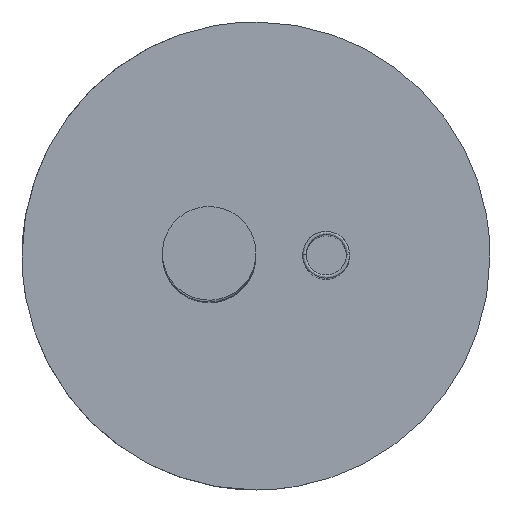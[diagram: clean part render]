
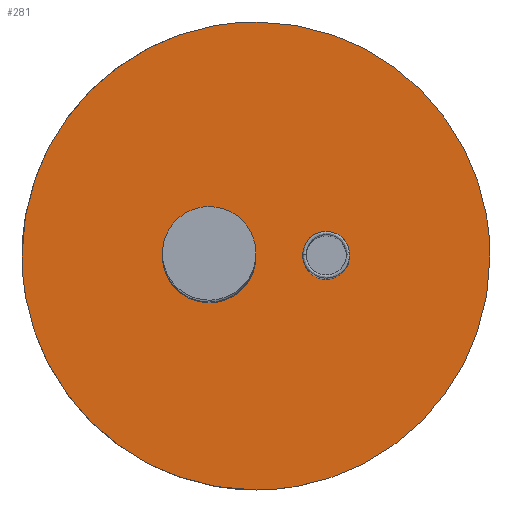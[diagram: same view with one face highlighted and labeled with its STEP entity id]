
A CAD part, top view. The second image highlights one B-rep face of the part: STEP entity #281.
In plain terms, the highlighted planar face has unit normal (0, 0, 1).
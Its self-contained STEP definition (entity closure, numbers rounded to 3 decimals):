
#38=FACE_BOUND('',#1830,.T.);
#39=FACE_BOUND('',#1831,.T.);
#281=ADVANCED_FACE('',(#1048,#38,#39),#12945,.T.);
#1048=FACE_OUTER_BOUND('',#1829,.T.);
#1829=EDGE_LOOP('',(#3483,#3484,#3485,#3486));
#1830=EDGE_LOOP('',(#3487,#3488,#3489,#3490));
#1831=EDGE_LOOP('',(#3491,#3492));
#3483=ORIENTED_EDGE('',*,*,#7410,.F.);
#3484=ORIENTED_EDGE('',*,*,#7560,.F.);
#3485=ORIENTED_EDGE('',*,*,#7561,.F.);
#3486=ORIENTED_EDGE('',*,*,#7409,.F.);
#3487=ORIENTED_EDGE('',*,*,#8709,.F.);
#3488=ORIENTED_EDGE('',*,*,#8710,.F.);
#3489=ORIENTED_EDGE('',*,*,#8711,.F.);
#3490=ORIENTED_EDGE('',*,*,#8712,.F.);
#3491=ORIENTED_EDGE('',*,*,#9149,.F.);
#3492=ORIENTED_EDGE('',*,*,#7251,.F.);
#7251=EDGE_CURVE('',#11624,#12928,#11298,.T.);
#7409=EDGE_CURVE('',#11725,#11724,#11324,.T.);
#7410=EDGE_CURVE('',#11726,#11725,#11325,.T.);
#7560=EDGE_CURVE('',#12097,#11726,#11327,.T.);
#7561=EDGE_CURVE('',#11724,#12097,#11328,.T.);
#8709=EDGE_CURVE('',#12603,#12602,#11357,.T.);
#8710=EDGE_CURVE('',#12604,#12603,#11358,.T.);
#8711=EDGE_CURVE('',#12605,#12604,#11359,.T.);
#8712=EDGE_CURVE('',#12602,#12605,#11360,.T.);
#9149=EDGE_CURVE('',#12928,#11624,#11393,.T.);
#11298=(
BOUNDED_CURVE()
B_SPLINE_CURVE(3,(#28158,#28159,#28160,#28161,#28162,#28163,#28164,#28165,
#28166,#28167,#28168,#28169,#28170),.UNSPECIFIED.,.F.,.F.)
B_SPLINE_CURVE_WITH_KNOTS((4,3,3,3,4),(-36.441,-31.886,
-27.331,-22.775,-18.22),.UNSPECIFIED.)
CURVE()
GEOMETRIC_REPRESENTATION_ITEM()
RATIONAL_B_SPLINE_CURVE((1.,1.,1.,1.,1.,1.,1.,1.,1.,
1.,1.,1.,1.))
REPRESENTATION_ITEM('')
);
#11324=(
BOUNDED_CURVE()
B_SPLINE_CURVE(2,(#29115,#29116,#29117),.UNSPECIFIED.,.F.,.F.)
B_SPLINE_CURVE_WITH_KNOTS((3,3),(-109.956,0.),.UNSPECIFIED.)
CURVE()
GEOMETRIC_REPRESENTATION_ITEM()
RATIONAL_B_SPLINE_CURVE((1.,0.707,1.))
REPRESENTATION_ITEM('')
);
#11325=(
BOUNDED_CURVE()
B_SPLINE_CURVE(2,(#29118,#29119,#29120),.UNSPECIFIED.,.F.,.F.)
B_SPLINE_CURVE_WITH_KNOTS((3,3),(-109.956,0.),.UNSPECIFIED.)
CURVE()
GEOMETRIC_REPRESENTATION_ITEM()
RATIONAL_B_SPLINE_CURVE((1.,0.707,1.))
REPRESENTATION_ITEM('')
);
#11327=(
BOUNDED_CURVE()
B_SPLINE_CURVE(2,(#29720,#29721,#29722),.UNSPECIFIED.,.F.,.F.)
B_SPLINE_CURVE_WITH_KNOTS((3,3),(-109.956,0.),.UNSPECIFIED.)
CURVE()
GEOMETRIC_REPRESENTATION_ITEM()
RATIONAL_B_SPLINE_CURVE((1.,0.707,1.))
REPRESENTATION_ITEM('')
);
#11328=(
BOUNDED_CURVE()
B_SPLINE_CURVE(2,(#29723,#29724,#29725),.UNSPECIFIED.,.F.,.F.)
B_SPLINE_CURVE_WITH_KNOTS((3,3),(-109.956,0.),.UNSPECIFIED.)
CURVE()
GEOMETRIC_REPRESENTATION_ITEM()
RATIONAL_B_SPLINE_CURVE((1.,0.707,1.))
REPRESENTATION_ITEM('')
);
#11357=(
BOUNDED_CURVE()
B_SPLINE_CURVE(2,(#33068,#33069,#33070),.UNSPECIFIED.,.F.,.F.)
B_SPLINE_CURVE_WITH_KNOTS((3,3),(-59.14,-39.427),
 .UNSPECIFIED.)
CURVE()
GEOMETRIC_REPRESENTATION_ITEM()
RATIONAL_B_SPLINE_CURVE((1.,0.707,1.))
REPRESENTATION_ITEM('')
);
#11358=(
BOUNDED_CURVE()
B_SPLINE_CURVE(2,(#33071,#33072,#33073),.UNSPECIFIED.,.F.,.F.)
B_SPLINE_CURVE_WITH_KNOTS((3,3),(0.,19.713),.UNSPECIFIED.)
CURVE()
GEOMETRIC_REPRESENTATION_ITEM()
RATIONAL_B_SPLINE_CURVE((1.,0.707,1.))
REPRESENTATION_ITEM('')
);
#11359=(
BOUNDED_CURVE()
B_SPLINE_CURVE(2,(#33074,#33075,#33076),.UNSPECIFIED.,.F.,.F.)
B_SPLINE_CURVE_WITH_KNOTS((3,3),(-19.713,0.),.UNSPECIFIED.)
CURVE()
GEOMETRIC_REPRESENTATION_ITEM()
RATIONAL_B_SPLINE_CURVE((1.,0.707,1.))
REPRESENTATION_ITEM('')
);
#11360=(
BOUNDED_CURVE()
B_SPLINE_CURVE(2,(#33077,#33078,#33079),.UNSPECIFIED.,.F.,.F.)
B_SPLINE_CURVE_WITH_KNOTS((3,3),(-39.427,-19.713),
 .UNSPECIFIED.)
CURVE()
GEOMETRIC_REPRESENTATION_ITEM()
RATIONAL_B_SPLINE_CURVE((1.,0.707,1.))
REPRESENTATION_ITEM('')
);
#11393=(
BOUNDED_CURVE()
B_SPLINE_CURVE(3,(#35906,#35907,#35908,#35909,#35910,#35911,#35912,#35913,
#35914,#35915,#35916,#35917,#35918),.UNSPECIFIED.,.F.,.F.)
B_SPLINE_CURVE_WITH_KNOTS((4,3,3,3,4),(-18.22,-13.665,
-9.11,-4.555,0.),.UNSPECIFIED.)
CURVE()
GEOMETRIC_REPRESENTATION_ITEM()
RATIONAL_B_SPLINE_CURVE((1.,1.,1.,1.,1.,
1.,1.,1.,1.,1.,1.,1.,1.))
REPRESENTATION_ITEM('')
);
#11624=VERTEX_POINT('',#24623);
#11724=VERTEX_POINT('',#24723);
#11725=VERTEX_POINT('',#24724);
#11726=VERTEX_POINT('',#24725);
#12097=VERTEX_POINT('',#25096);
#12602=VERTEX_POINT('',#25601);
#12603=VERTEX_POINT('',#25602);
#12604=VERTEX_POINT('',#25603);
#12605=VERTEX_POINT('',#25604);
#12928=VERTEX_POINT('',#25927);
#12945=PLANE('',#13732);
#13732=AXIS2_PLACEMENT_3D('',#18530,#13920,$);
#13920=DIRECTION('',(0.,0.,1.));
#18530=CARTESIAN_POINT('',(84.238,-88.238,4.));
#24623=CARTESIAN_POINT('',(26.59,-2.454,4.));
#24723=CARTESIAN_POINT('',(0.,66.,4.));
#24724=CARTESIAN_POINT('',(-70.,-4.,4.));
#24725=CARTESIAN_POINT('',(0.,-74.,4.));
#25096=CARTESIAN_POINT('',(70.,-4.,4.));
#25601=CARTESIAN_POINT('',(-14.,8.55,4.));
#25602=CARTESIAN_POINT('',(-1.45,-4.,4.));
#25603=CARTESIAN_POINT('',(-14.,-16.55,4.));
#25604=CARTESIAN_POINT('',(-26.55,-4.,4.));
#25927=CARTESIAN_POINT('',(15.407,-5.547,4.));
#28158=CARTESIAN_POINT('',(26.59,-2.454,4.));
#28159=CARTESIAN_POINT('',(26.193,-0.989,4.));
#28160=CARTESIAN_POINT('',(25.181,0.302,4.));
#28161=CARTESIAN_POINT('',(23.86,1.048,4.));
#28162=CARTESIAN_POINT('',(22.54,1.795,4.));
#28163=CARTESIAN_POINT('',(20.913,1.998,4.));
#28164=CARTESIAN_POINT('',(19.453,1.594,4.));
#28165=CARTESIAN_POINT('',(17.992,1.19,4.));
#28166=CARTESIAN_POINT('',(16.699,0.18,4.));
#28167=CARTESIAN_POINT('',(15.951,-1.139,4.));
#28168=CARTESIAN_POINT('',(15.204,-2.459,4.));
#28169=CARTESIAN_POINT('',(15.003,-4.087,4.));
#28170=CARTESIAN_POINT('',(15.407,-5.547,4.));
#29115=CARTESIAN_POINT('',(-70.,-4.,4.));
#29116=CARTESIAN_POINT('',(-70.,66.,4.));
#29117=CARTESIAN_POINT('',(0.,66.,4.));
#29118=CARTESIAN_POINT('',(0.,-74.,4.));
#29119=CARTESIAN_POINT('',(-70.,-74.,4.));
#29120=CARTESIAN_POINT('',(-70.,-4.,4.));
#29720=CARTESIAN_POINT('',(70.,-4.,4.));
#29721=CARTESIAN_POINT('',(70.,-74.,4.));
#29722=CARTESIAN_POINT('',(0.,-74.,4.));
#29723=CARTESIAN_POINT('',(0.,66.,4.));
#29724=CARTESIAN_POINT('',(70.,66.,4.));
#29725=CARTESIAN_POINT('',(70.,-4.,4.));
#33068=CARTESIAN_POINT('',(-1.45,-4.,4.));
#33069=CARTESIAN_POINT('',(-1.45,8.55,4.));
#33070=CARTESIAN_POINT('',(-14.,8.55,4.));
#33071=CARTESIAN_POINT('',(-14.,-16.55,4.));
#33072=CARTESIAN_POINT('',(-1.45,-16.55,4.));
#33073=CARTESIAN_POINT('',(-1.45,-4.,4.));
#33074=CARTESIAN_POINT('',(-26.55,-4.,4.));
#33075=CARTESIAN_POINT('',(-26.55,-16.55,4.));
#33076=CARTESIAN_POINT('',(-14.,-16.55,4.));
#33077=CARTESIAN_POINT('',(-14.,8.55,4.));
#33078=CARTESIAN_POINT('',(-26.55,8.55,4.));
#33079=CARTESIAN_POINT('',(-26.55,-4.,4.));
#35906=CARTESIAN_POINT('',(15.407,-5.547,4.));
#35907=CARTESIAN_POINT('',(15.811,-7.008,4.));
#35908=CARTESIAN_POINT('',(16.82,-8.301,4.));
#35909=CARTESIAN_POINT('',(18.139,-9.049,4.));
#35910=CARTESIAN_POINT('',(19.458,-9.796,4.));
#35911=CARTESIAN_POINT('',(21.087,-9.998,4.));
#35912=CARTESIAN_POINT('',(22.548,-9.594,4.));
#35913=CARTESIAN_POINT('',(24.008,-9.189,4.));
#35914=CARTESIAN_POINT('',(25.3,-8.18,4.));
#35915=CARTESIAN_POINT('',(26.048,-6.861,4.));
#35916=CARTESIAN_POINT('',(26.797,-5.542,4.));
#35917=CARTESIAN_POINT('',(27.002,-3.914,4.));
#35918=CARTESIAN_POINT('',(26.59,-2.454,4.));
